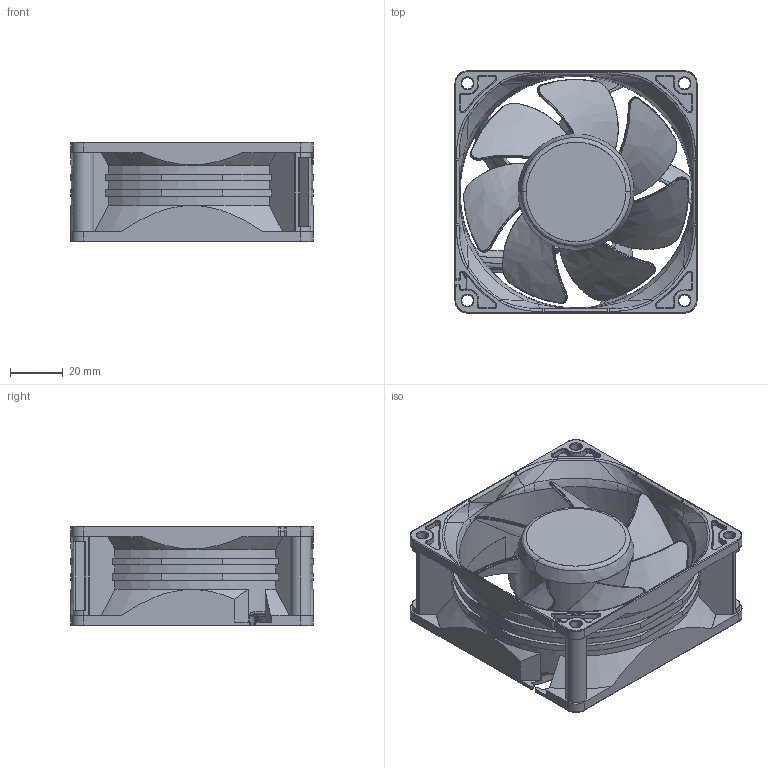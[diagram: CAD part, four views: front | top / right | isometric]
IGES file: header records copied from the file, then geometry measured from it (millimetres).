
Start section: SolidWorks IGES file using analytic representation for surfaces
Global section: file name: C:\Kevin\20161221 3Dモデルの公開に関して\20170201 9GV92x38\9238 GV RIBBED.IGS; native system: SolidWorks 2017; preprocessor: SolidWorks 2017; author: Kevin-Yen; date: 170208.103756; units: millimetre
Bounding box: 92 x 92 x 38 mm (x, y, z)
Surface area: 60759.4 mm2 (no closed solid volume)
Topology: 0 solids, 0 shells, 690 faces, 7718 edges, 7669 vertices
Faces by surface type: bspline 456, revolution 234
